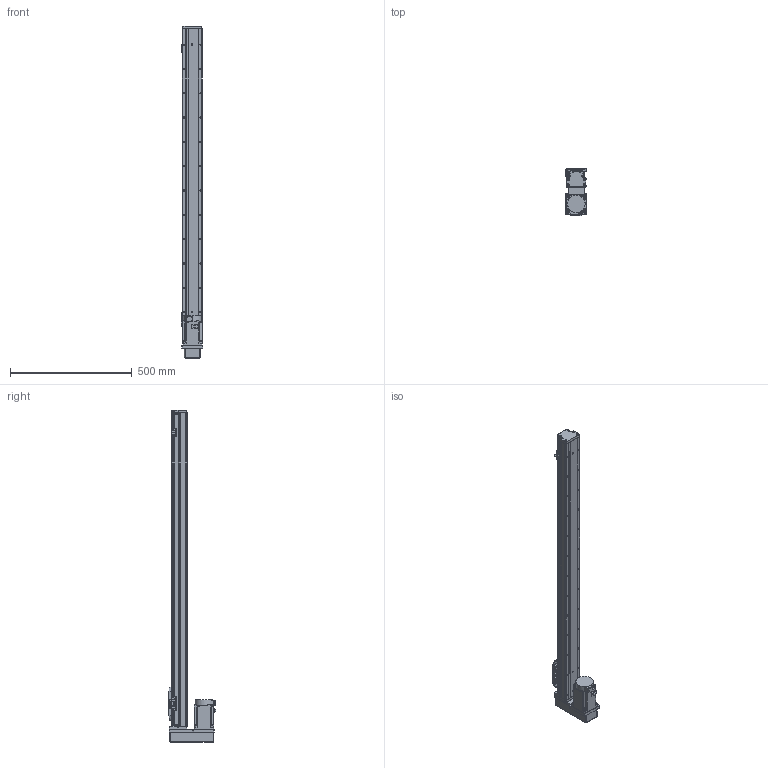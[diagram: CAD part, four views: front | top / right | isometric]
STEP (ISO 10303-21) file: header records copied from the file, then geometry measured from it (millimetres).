
FILE_DESCRIPTION (( 'STEP AP203' ), '1' );
FILE_NAME ('GTH8-1100-BM-M75-C4.step', '2023-02-14T02:27:23', ( '微软用户' ), ( '微软中国' ), 'SwSTEP 2.0', 'SolidWorks 2020', '' );
FILE_SCHEMA (( 'CONFIG_CONTROL_DESIGN' ));
Length unit declared in the file: millimetre
Products named in the file (18): GTH80-004; GTH80-028; hg-kn73j_-s100; GTH80-006; GTH50-024; GTH8-1100-BM-M75-C4; GTH80-013; GTH50-023; GBT 70.3-M3℅6; GBT96.1-2002 3×0.8; GTH80-022; BTH-M3X5X6; GTH80-001_1100; GBT 70.1-M3℅6; CTHA86-015-3_CTHA86-015-4; GTH80-003; GBT 70.1-M4×16; CTHA86-035
Assembly tree (57 placements, depth 2):
  GTH8-1100-BM-M75-C4
    GTH80-001_1100
    GTH80-003
    GTH80-004
    GTH80-006
    GTH80-013
    GBT 70.3-M3℅6  x4
    GTH80-022
    GBT 70.1-M3℅6  x14
    GBT 70.1-M4×16  x8
    GTH80-028  x2
    GTH50-024  x3
    GTH50-023  x3
    GBT96.1-2002 3×0.8  x6
    BTH-M3X5X6  x8
    CTHA86-015-3_CTHA86-015-4
    CTHA86-035
    hg-kn73j_-s100
Bounding box: 89.4 x 195.3 x 1366 mm (x, y, z)
Volume: 7129070 mm3; surface area: 673034.5 mm2
Topology: 59 solids, 59 shells, 2215 faces, 5154 edges, 3160 vertices
Faces by surface type: plane 1153, cylinder 647, cone 243, torus 158, sphere 12, bspline 2
Entity records: 40328 total; most frequent: CARTESIAN_POINT 6767, DIRECTION 6669, ORIENTED_EDGE 6118, EDGE_CURVE 3059, AXIS2_PLACEMENT_3D 2362, LINE 1945, VECTOR 1945, VERTEX_POINT 1935
